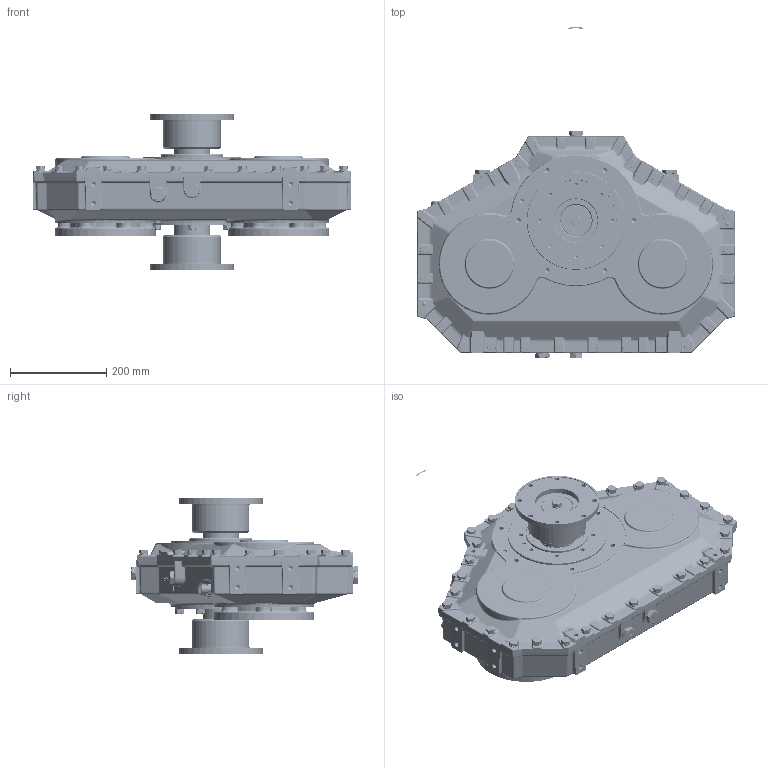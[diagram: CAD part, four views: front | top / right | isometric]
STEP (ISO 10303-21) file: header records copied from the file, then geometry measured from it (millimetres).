
FILE_DESCRIPTION (( 'STEP AP214' ), '1' );
FILE_NAME ('1029017E.STEP', '2015-06-25T09:36:37', ( '' ), ( '' ), 'SwSTEP 2.0', 'SolidWorks 2007', '' );
FILE_SCHEMA (( 'AUTOMOTIVE_DESIGN' ));
Length unit declared in the file: millimetre
Products named in the file (8): IT1042086_rev02-installation; IT1042091_rev00-installation_reissued; IT4588040_rev00-installation; ITam230-002_rev00-installation; IT2021216_rev03-installation; ITB00510000_rev01-installation; 1029017E; IT2062307_rev02-installation
Assembly tree (10 placements, depth 2):
  1029017E
    IT1042091_rev00-installation_reissued  x2
    IT1042086_rev02-installation
    IT2021216_rev03-installation  x2
    ITam230-002_rev00-installation
    ITB00510000_rev01-installation
    IT2062307_rev02-installation  x2
    IT4588040_rev00-installation
Bounding box: 660 x 690.04 x 324 mm (x, y, z)
Volume: 4592769.9 mm3; surface area: 2533651.3 mm2
Topology: 38 solids, 156 shells, 8228 faces, 20064 edges, 12467 vertices
Faces by surface type: plane 2768, cylinder 2741, bspline 1295, cone 665, torus 657, sphere 102
Entity records: 332643 total; most frequent: CARTESIAN_POINT 92888, ORIENTED_EDGE 34413, DIRECTION 32087, EDGE_CURVE 17213, AXIS2_PLACEMENT_3D 12288, VERTEX_POINT 10697, EDGE_LOOP 7774, VECTOR 7511
